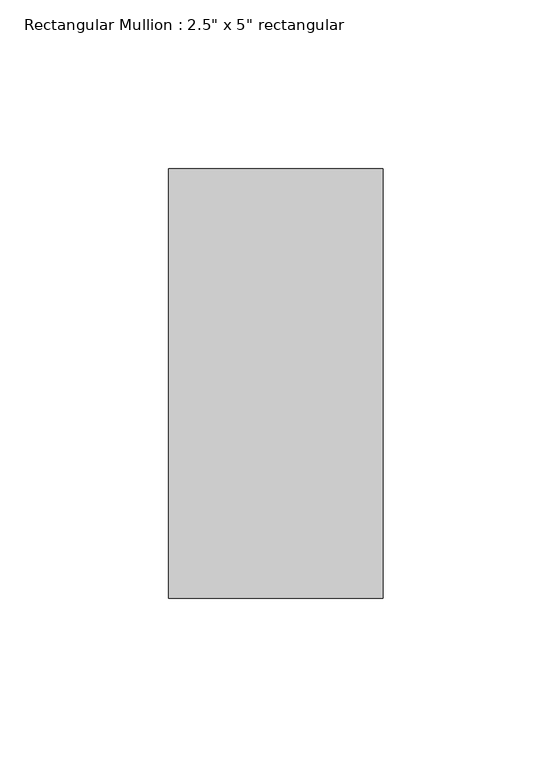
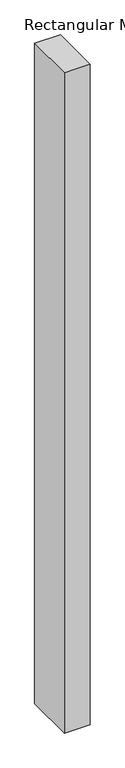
"""IFC4 building model written with IfcOpenShell, lengths in millimetres: member geometry."""

from ifc_helpers import new_model, si_unit, frame, origin, place, context, project, spatial, polyline, outline, extrude, source, transform, mapped, element, save


def member_94bcc3e5(model_context):
    return source(origin(), model_context, "Body", "SweptSolid", [
        extrude(outline(polyline([(31.75, 63.5), (31.75, -63.5), (-31.75, -63.5), (-31.75, 63.5), (31.75, 63.5)])), frame((0.0, 0.0, -1724.5271189), z_axis=(0.0, 0.0, 1.0), x_axis=(1.0, 0.0, 0.0)), (0.0, 0.0, 1.0), 1724.5271189),
    ])


if __name__ == "__main__":
    model = new_model("IFC4")
    model_context = context("Model", 3, world=origin())
    ifc_project = project(units=[si_unit("LENGTHUNIT", "METRE", prefix="MILLI")], contexts=[model_context])
    site = spatial("IfcSite", under=ifc_project)
    building = spatial("IfcBuilding", under=site)
    placement = place(None, origin())
    member_shape = member_94bcc3e5(model_context)
    element("IfcMember", 1, ObjectType="Rectangular Mullion : 2.5\" x 5\" rectangular", at=placement, inside=building, context=model_context, shape_type="MappedRepresentation", body=[
        mapped(member_shape, transform((0.0, 0.0, 0.0), x_axis=(1.0, 0.0, 0.0), y_axis=(0.0, 1.0, 0.0), z_axis=(0.0, 0.0, 1.0))),
    ])
    save(model, "model.ifc")
